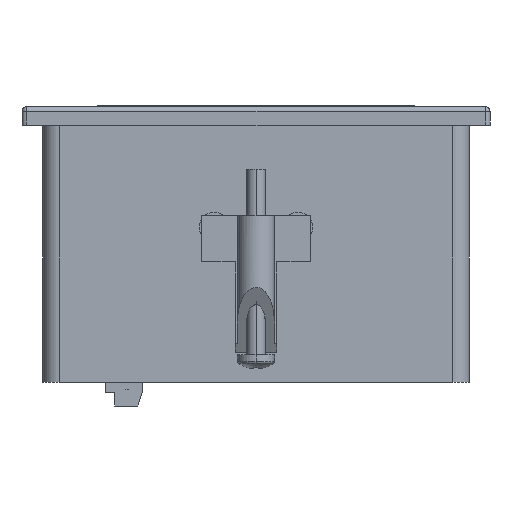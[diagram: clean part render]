
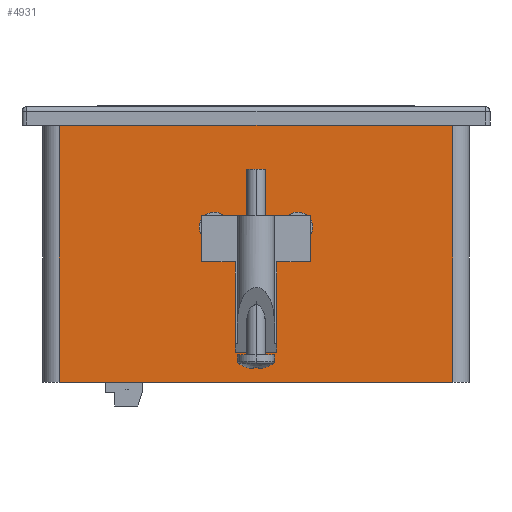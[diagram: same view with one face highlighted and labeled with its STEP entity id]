
A CAD part, left-side view. The second image highlights one B-rep face of the part: STEP entity #4931.
In plain terms, the highlighted planar face has unit normal (-1, 0, 0).
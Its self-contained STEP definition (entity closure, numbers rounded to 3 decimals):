
#328 = CARTESIAN_POINT ( 'NONE',  ( -46., 46., -56.5 ) ) ;
#474 = DIRECTION ( 'NONE',  ( 0., -1., 0. ) ) ;
#2915 = DIRECTION ( 'NONE',  ( 0., 0., 1. ) ) ;
#3225 = ORIENTED_EDGE ( 'NONE', *, *, #47425, .F. ) ;
#4421 = CIRCLE ( 'NONE', #57227, 3.25 ) ;
#4931 = ADVANCED_FACE ( 'NONE', ( #70194, #27781, #40832 ), #61215, .F. ) ;
#5758 = ORIENTED_EDGE ( 'NONE', *, *, #17846, .T. ) ;
#6386 = CARTESIAN_POINT ( 'NONE',  ( -46., -42.5, -56.5 ) ) ;
#6390 = DIRECTION ( 'NONE',  ( -1., 0., 0. ) ) ;
#6962 = CIRCLE ( 'NONE', #69571, 3.25 ) ;
#8655 = VERTEX_POINT ( 'NONE', #6386 ) ;
#9212 = VECTOR ( 'NONE', #29130, 1000. ) ;
#9270 = DIRECTION ( 'NONE',  ( -1., 0., 0. ) ) ;
#11103 = CARTESIAN_POINT ( 'NONE',  ( -46., 42.5, -56.5 ) ) ;
#11426 = ORIENTED_EDGE ( 'NONE', *, *, #56637, .F. ) ;
#11474 = DIRECTION ( 'NONE',  ( 0., 1., 0. ) ) ;
#11618 = LINE ( 'NONE', #36193, #41200 ) ;
#12009 = LINE ( 'NONE', #11103, #41592 ) ;
#12117 = VECTOR ( 'NONE', #59465, 1000. ) ;
#13901 = LINE ( 'NONE', #48796, #12117 ) ;
#17846 = EDGE_CURVE ( 'NONE', #43679, #61333, #12009, .T. ) ;
#18403 = ORIENTED_EDGE ( 'NONE', *, *, #57486, .F. ) ;
#18478 = EDGE_CURVE ( 'NONE', #37826, #59386, #49228, .T. ) ;
#23823 = EDGE_CURVE ( 'NONE', #43372, #43679, #13901, .T. ) ;
#24940 = EDGE_LOOP ( 'NONE', ( #46949, #11426 ) ) ;
#25242 = CARTESIAN_POINT ( 'NONE',  ( -46., -9., -23. ) ) ;
#27781 = FACE_BOUND ( 'NONE', #31363, .T. ) ;
#29130 = DIRECTION ( 'NONE',  ( 0., 1., 0. ) ) ;
#29598 = ORIENTED_EDGE ( 'NONE', *, *, #23823, .T. ) ;
#30668 = AXIS2_PLACEMENT_3D ( 'NONE', #39734, #6390, #45309 ) ;
#30853 = DIRECTION ( 'NONE',  ( 0., -1., 0. ) ) ;
#31363 = EDGE_LOOP ( 'NONE', ( #18403, #35022 ) ) ;
#31974 = CARTESIAN_POINT ( 'NONE',  ( -46., -12.25, -23. ) ) ;
#32886 = VERTEX_POINT ( 'NONE', #31974 ) ;
#33753 = DIRECTION ( 'NONE',  ( -1., 0., 0. ) ) ;
#33896 = CARTESIAN_POINT ( 'NONE',  ( -46., -42.5, 0. ) ) ;
#35022 = ORIENTED_EDGE ( 'NONE', *, *, #58012, .F. ) ;
#36193 = CARTESIAN_POINT ( 'NONE',  ( -46., -42.5, -56.5 ) ) ;
#37438 = CARTESIAN_POINT ( 'NONE',  ( -46., 42.5, -56.5 ) ) ;
#37826 = VERTEX_POINT ( 'NONE', #60176 ) ;
#39734 = CARTESIAN_POINT ( 'NONE',  ( -46., 9., -23. ) ) ;
#40605 = CARTESIAN_POINT ( 'NONE',  ( -46., -5.75, -23. ) ) ;
#40832 = FACE_OUTER_BOUND ( 'NONE', #44616, .T. ) ;
#41200 = VECTOR ( 'NONE', #2915, 1000. ) ;
#41342 = ORIENTED_EDGE ( 'NONE', *, *, #44030, .T. ) ;
#41592 = VECTOR ( 'NONE', #50015, 1000. ) ;
#42629 = CARTESIAN_POINT ( 'NONE',  ( -46., -9., -23. ) ) ;
#43372 = VERTEX_POINT ( 'NONE', #33896 ) ;
#43679 = VERTEX_POINT ( 'NONE', #54724 ) ;
#44030 = EDGE_CURVE ( 'NONE', #8655, #43372, #11618, .T. ) ;
#44616 = EDGE_LOOP ( 'NONE', ( #3225, #41342, #29598, #5758 ) ) ;
#44809 = DIRECTION ( 'NONE',  ( 1., 0., 0. ) ) ;
#44893 = CARTESIAN_POINT ( 'NONE',  ( -46., 12.25, -23. ) ) ;
#45309 = DIRECTION ( 'NONE',  ( 0., -1., 0. ) ) ;
#46949 = ORIENTED_EDGE ( 'NONE', *, *, #18478, .F. ) ;
#47425 = EDGE_CURVE ( 'NONE', #8655, #61333, #51892, .T. ) ;
#48218 = DIRECTION ( 'NONE',  ( 0., -1., 0. ) ) ;
#48430 = CIRCLE ( 'NONE', #50266, 3.25 ) ;
#48796 = CARTESIAN_POINT ( 'NONE',  ( -46., 46., 0. ) ) ;
#49228 = CIRCLE ( 'NONE', #30668, 3.25 ) ;
#50015 = DIRECTION ( 'NONE',  ( 0., 0., -1. ) ) ;
#50266 = AXIS2_PLACEMENT_3D ( 'NONE', #42629, #9270, #48218 ) ;
#50568 = VERTEX_POINT ( 'NONE', #40605 ) ;
#51892 = LINE ( 'NONE', #62285, #9212 ) ;
#54724 = CARTESIAN_POINT ( 'NONE',  ( -46., 42.5, 0. ) ) ;
#56637 = EDGE_CURVE ( 'NONE', #59386, #37826, #6962, .T. ) ;
#57227 = AXIS2_PLACEMENT_3D ( 'NONE', #25242, #63974, #30853 ) ;
#57486 = EDGE_CURVE ( 'NONE', #32886, #50568, #48430, .T. ) ;
#58012 = EDGE_CURVE ( 'NONE', #50568, #32886, #4421, .T. ) ;
#59386 = VERTEX_POINT ( 'NONE', #44893 ) ;
#59465 = DIRECTION ( 'NONE',  ( 0., 1., 0. ) ) ;
#60176 = CARTESIAN_POINT ( 'NONE',  ( -46., 5.75, -23. ) ) ;
#61215 = PLANE ( 'NONE',  #71958 ) ;
#61333 = VERTEX_POINT ( 'NONE', #37438 ) ;
#62285 = CARTESIAN_POINT ( 'NONE',  ( -46., 46., -56.5 ) ) ;
#63974 = DIRECTION ( 'NONE',  ( -1., 0., 0. ) ) ;
#66933 = CARTESIAN_POINT ( 'NONE',  ( -46., 9., -23. ) ) ;
#69571 = AXIS2_PLACEMENT_3D ( 'NONE', #66933, #33753, #474 ) ;
#70194 = FACE_BOUND ( 'NONE', #24940, .T. ) ;
#71958 = AXIS2_PLACEMENT_3D ( 'NONE', #328, #44809, #11474 ) ;
